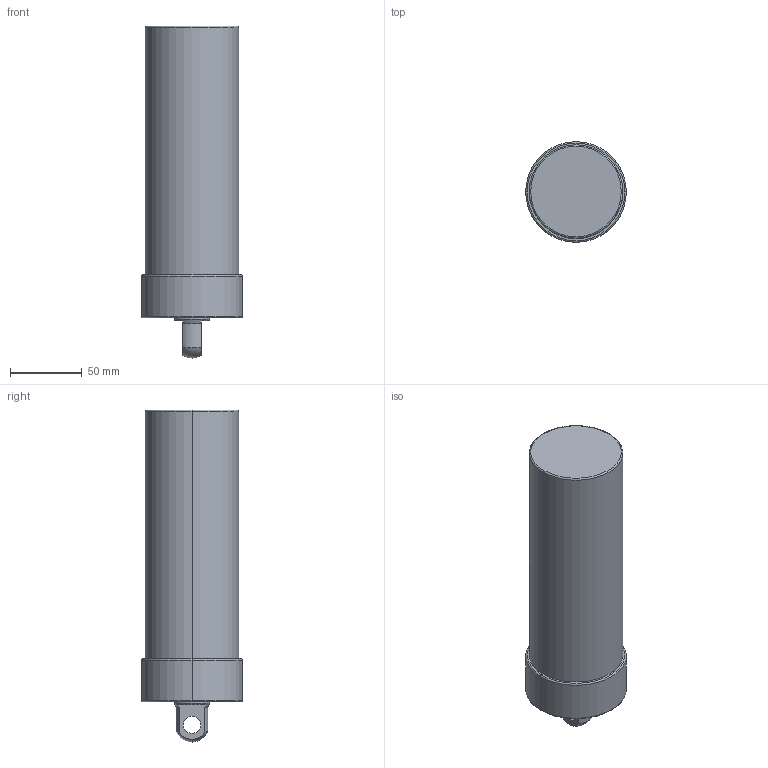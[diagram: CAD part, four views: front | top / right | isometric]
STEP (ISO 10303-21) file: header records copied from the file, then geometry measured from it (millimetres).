
FILE_DESCRIPTION (( 'STEP AP203' ), '1' );
FILE_NAME ('CLLU-065GP-140.STEP', '2020-01-08T00:38:26', ( '' ), ( '' ), 'SwSTEP 2.0', 'SolidWorks 2015', '' );
FILE_SCHEMA (( 'CONFIG_CONTROL_DESIGN' ));
Length unit declared in the file: millimetre
Products named in the file (1): CLLU-065GP-140
Bounding box: 70 x 70 x 231 mm (x, y, z)
Volume: 693606 mm3; surface area: 52283.1 mm2
Topology: 1 solids, 1 shells, 57 faces, 130 edges, 75 vertices
Faces by surface type: cylinder 22, cone 18, plane 9, torus 6, sphere 2
Entity records: 1643 total; most frequent: DIRECTION 308, CARTESIAN_POINT 267, ORIENTED_EDGE 244, AXIS2_PLACEMENT_3D 132, EDGE_CURVE 122, VERTEX_POINT 75, CIRCLE 74, EDGE_LOOP 67
